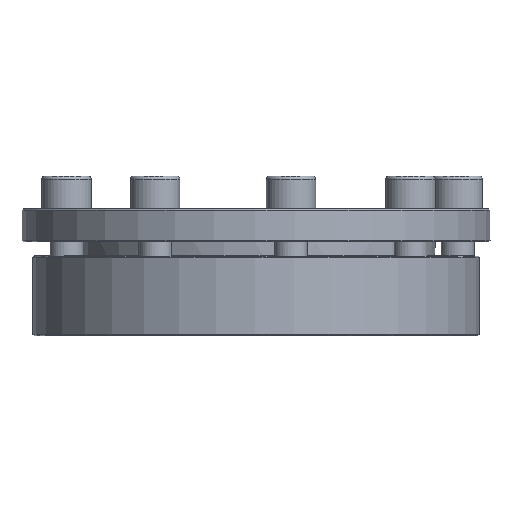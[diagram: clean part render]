
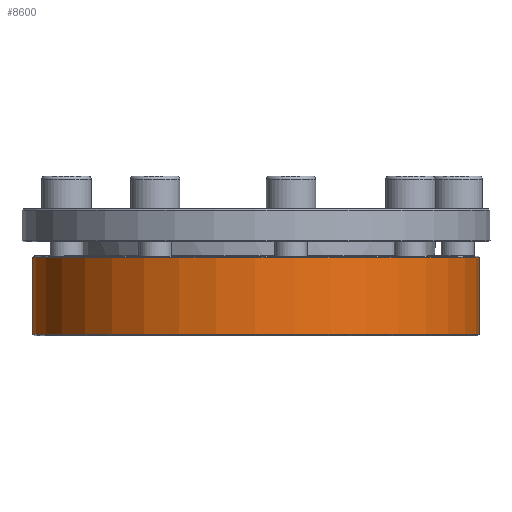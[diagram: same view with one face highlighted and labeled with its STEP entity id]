
A CAD part, front view. The second image highlights one B-rep face of the part: STEP entity #8600.
In plain terms, the highlighted cylindrical face has radius 95 mm (diameter 190 mm), a partial arc.
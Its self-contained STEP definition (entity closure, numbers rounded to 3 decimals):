
#5152=CARTESIAN_POINT('',(0.,0.,
-6.5));
#5153=DIRECTION('',(0.,0.,-1.));
#5154=DIRECTION('',(0.944,0.33,0.));
#5155=AXIS2_PLACEMENT_3D('',#5152,#5153,#5154);
#5188=DIRECTION('',(0.,0.,-1.));
#5189=VECTOR('',#5188,32.75);
#5190=CARTESIAN_POINT('',(88.836,33.664,-6.5));
#5191=LINE('',#5190,#5189);
#5195=DIRECTION('',(0.,0.,-1.));
#5196=VECTOR('',#5195,32.75);
#5197=CARTESIAN_POINT('',(89.691,31.314,-6.5));
#5198=LINE('',#5197,#5196);
#5220=CARTESIAN_POINT('',(0.,0.,
-39.25));
#5221=DIRECTION('',(0.,0.,1.));
#5222=DIRECTION('',(0.935,0.354,0.));
#5223=AXIS2_PLACEMENT_3D('',#5220,#5221,#5222);
#5827=CARTESIAN_POINT('',(89.691,31.314,-6.5));
#5828=CARTESIAN_POINT('',(89.691,31.314,-39.25));
#5829=VERTEX_POINT('',#5827);
#5830=VERTEX_POINT('',#5828);
#5831=CARTESIAN_POINT('',(88.836,33.664,-6.5));
#5832=CARTESIAN_POINT('',(88.836,33.664,-39.25));
#5833=VERTEX_POINT('',#5831);
#5834=VERTEX_POINT('',#5832);
#8588=CARTESIAN_POINT('',(0.,0.,-4.3));
#8589=DIRECTION('',(0.,0.,-1.));
#8590=DIRECTION('',(0.,-1.,0.));
#8591=AXIS2_PLACEMENT_3D('',#8588,#8589,#8590);
#8592=CYLINDRICAL_SURFACE('',#8591,95.);
#8594=ORIENTED_EDGE('',*,*,#8593,.F.);
#8595=ORIENTED_EDGE('',*,*,#8554,.F.);
#8596=ORIENTED_EDGE('',*,*,#8573,.F.);
#8597=ORIENTED_EDGE('',*,*,#7844,.T.);
#8598=EDGE_LOOP('',(#8594,#8595,#8596,#8597));
#8599=FACE_OUTER_BOUND('',#8598,.F.);
#8600=ADVANCED_FACE('',(#8599),#8592,.T.);
#5156=CIRCLE('',#5155,95.);
#5224=CIRCLE('',#5223,95.);
#7844=EDGE_CURVE('',#5829,#5830,#5198,.T.);
#8554=EDGE_CURVE('',#5833,#5834,#5191,.T.);
#8573=EDGE_CURVE('',#5829,#5833,#5156,.T.);
#8593=EDGE_CURVE('',#5834,#5830,#5224,.T.);
